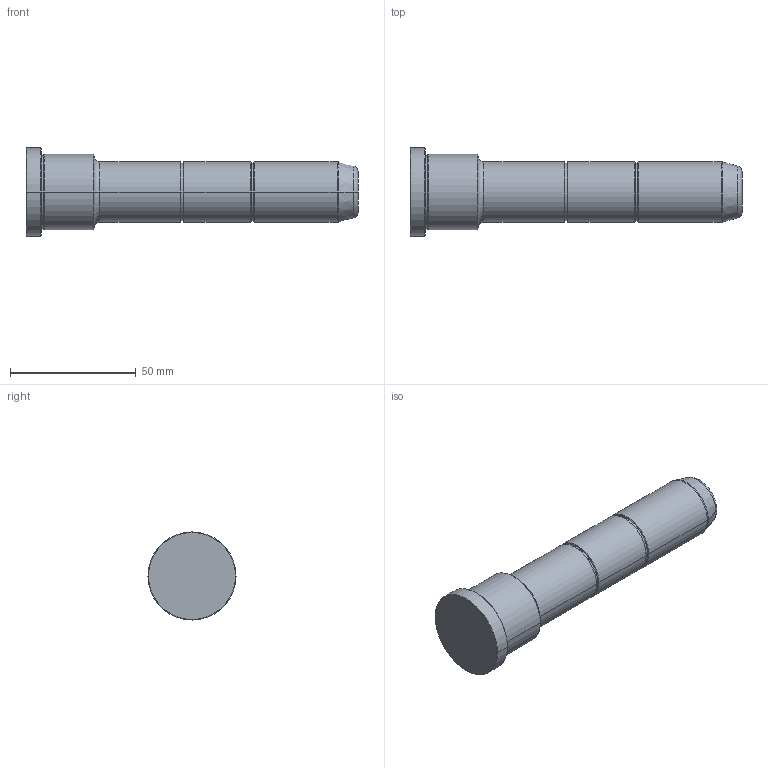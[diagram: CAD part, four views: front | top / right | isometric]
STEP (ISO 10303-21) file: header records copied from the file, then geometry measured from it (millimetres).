
FILE_DESCRIPTION (( 'STEP AP214' ), '1' );
FILE_NAME ('R01_027x24x105.STEP', '2015-03-05T14:04:31', ( 'TGL' ), ( '' ), 'SwSTEP 2.0', 'SolidWorks 2011', '' );
FILE_SCHEMA (( 'AUTOMOTIVE_DESIGN' ));
Length unit declared in the file: millimetre
Products named in the file (1): R01_027x24x105
Bounding box: 132 x 35 x 35 mm (x, y, z)
Volume: 67433.3 mm3; surface area: 12335 mm2
Topology: 1 solids, 1 shells, 49 faces, 96 edges, 56 vertices
Faces by surface type: cone 18, cylinder 16, plane 9, torus 6
Entity records: 1426 total; most frequent: DIRECTION 258, CARTESIAN_POINT 202, ORIENTED_EDGE 192, AXIS2_PLACEMENT_3D 112, EDGE_CURVE 96, CIRCLE 62, VERTEX_POINT 56, EDGE_LOOP 56
